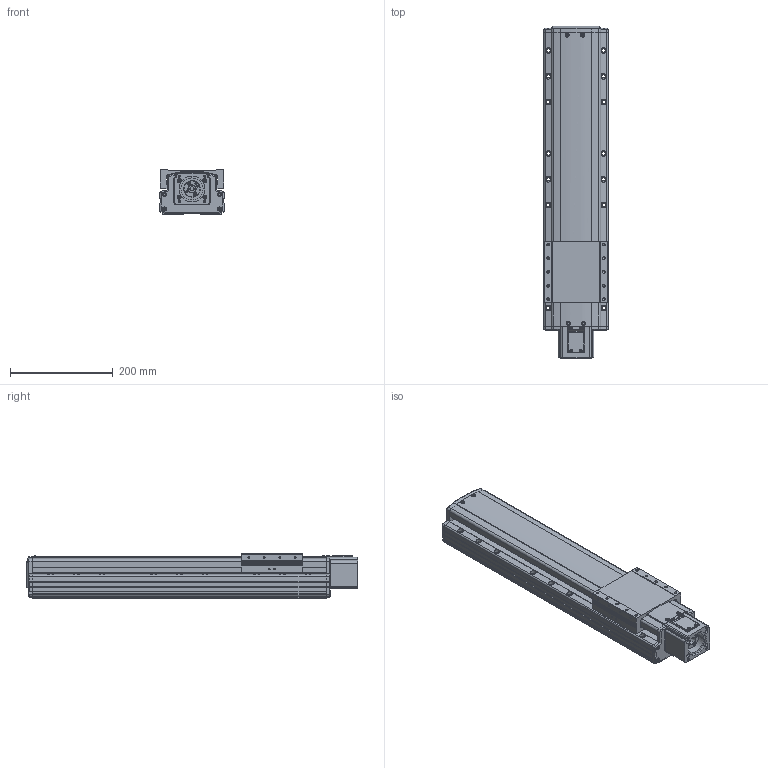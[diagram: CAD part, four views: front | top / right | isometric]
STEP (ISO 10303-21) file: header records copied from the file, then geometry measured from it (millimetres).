
FILE_DESCRIPTION(('STEP AP214'),'1');
FILE_NAME('Z:/Web/3D/PSA125/STP/PSA125-350 (3D)/PSA125ㅁㅁ-350S.stp','2014-06-22T23:53:13',(' '),(' '),'Spatial InterOp 3D',' ',' ');
FILE_SCHEMA(('automotive_design'));
Length unit declared in the file: millimetre
Products named in the file (35): 스크루 : Round - M4.0 x 10.0; RRCV-PA120; SLIDE; BASE; FRCV-PA120-1(기준 뿔 제거); RR1500; 스크루 : Round - M4.0 x 6.0; 너트 : Square - M10.0 x 220.7419; SSFX-SAN65; CPLCV-SAN65; 스크루 : Round - M3.0 x 6.0; MTHZ-PA120-S60A-3; 스크루 : Socket - M4.0 x 20.0; FRCV; NONE
Bounding box: 125 x 644.6 x 86 mm (x, y, z)
Volume: 5174058.4 mm3; surface area: 507407.4 mm2
Topology: 35 solids, 69 shells, 3154 faces, 8078 edges, 5076 vertices
Faces by surface type: plane 1465, cylinder 999, cone 425, torus 174, sphere 50, bspline 41
Entity records: 124360 total; most frequent: CARTESIAN_POINT 20682, DIRECTION 16944, ORIENTED_EDGE 15844, EDGE_CURVE 7922, AXIS2_PLACEMENT_3D 6118, VERTEX_POINT 5076, LINE 4708, VECTOR 4708
